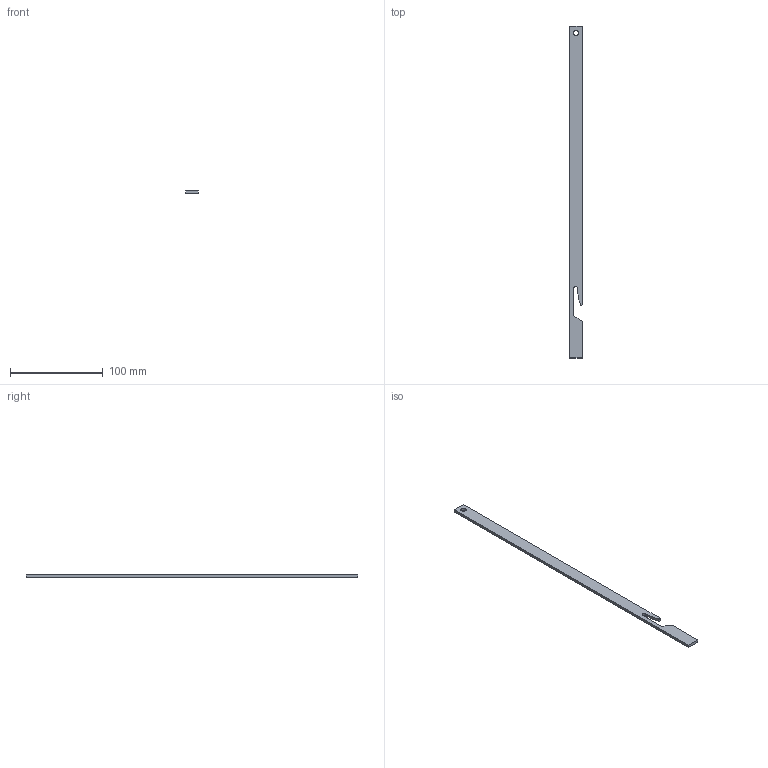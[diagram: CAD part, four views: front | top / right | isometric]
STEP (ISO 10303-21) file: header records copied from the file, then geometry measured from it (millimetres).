
FILE_DESCRIPTION (( 'STEP AP214' ), '1' );
FILE_NAME ('P390-351.STEP', '2016-09-08T08:20:10', ( '' ), ( '' ), 'SwSTEP 2.0', 'SolidWorks 2015', '' );
FILE_SCHEMA (( 'AUTOMOTIVE_DESIGN' ));
Length unit declared in the file: millimetre
Products named in the file (1): P390-351
Bounding box: 14 x 358.5 x 3 mm (x, y, z)
Volume: 14257.9 mm3; surface area: 11941.5 mm2
Topology: 1 solids, 1 shells, 15 faces, 39 edges, 26 vertices
Faces by surface type: plane 9, cylinder 6
Entity records: 503 total; most frequent: DIRECTION 83, CARTESIAN_POINT 81, ORIENTED_EDGE 78, EDGE_CURVE 39, AXIS2_PLACEMENT_3D 28, VECTOR 27, LINE 27, VERTEX_POINT 26
